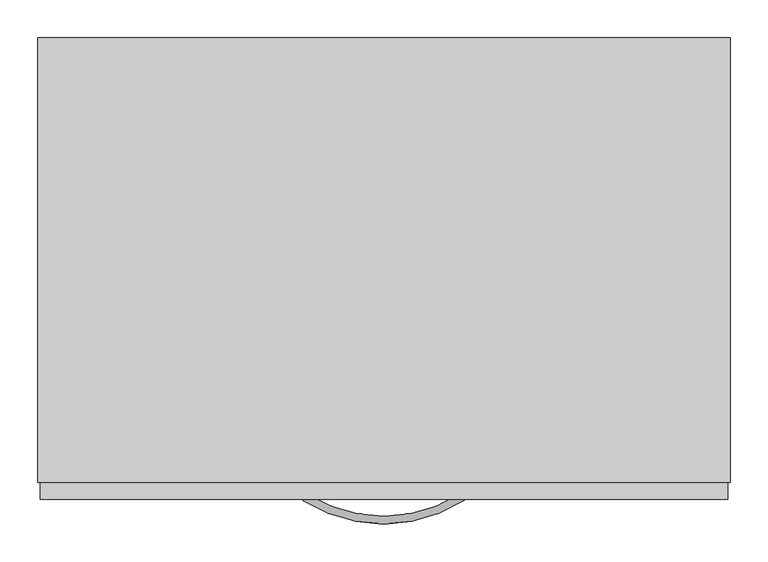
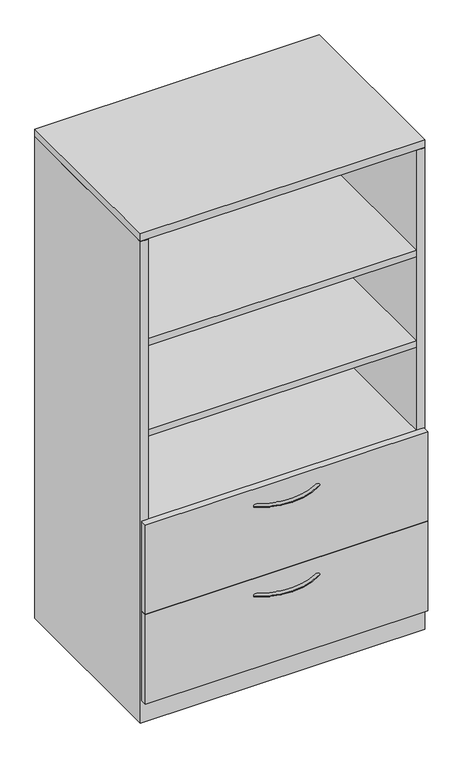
"""IFC4 building model written with IfcOpenShell, lengths in millimetres: furniture geometry, Steelcase - Universal Storage - Cabinet - Combination - Proud Steel : 65 1/2H - Open Cabinet/2 Drawers - 24D x 36W."""

from ifc_helpers import new_model, si_unit, point, frame, origin, place, context, project, spatial, polyline, circle_curve, ellipse_curve, trimmed, outline, extrude, faceted_brep, source, transform, mapped, element, save
from ifc_brep_helpers import plane_surface, revolved_surface, advanced_brep


def furniture_6ee735a6(model_context):
    return source(origin(), model_context, "Body", "SolidModel", [
        extrude(outline(polyline([(889.0000242, 104.6479992), (889.0000242, -454.0250121), (25.4000008, -454.0250121), (25.4000008, 104.6479992), (889.0000242, 104.6479992)])), frame((0.0, 0.0, 660.4000242), z_axis=(0.0, 0.0, 1.0), x_axis=(1.0, 0.0, 0.0)), (0.0, 0.0, 1.0), 22.2249516),
        extrude(outline(polyline([(889.0000242, 104.6479992), (889.0000242, -454.0250121), (25.4000008, -454.0250121), (25.4000008, 104.6479992), (889.0000242, 104.6479992)])), frame((0.0, 0.0, 965.2000242), z_axis=(0.0, 0.0, 1.0), x_axis=(1.0, 0.0, 0.0)), (0.0, 0.0, 1.0), 22.2249516),
        extrude(outline(polyline([(889.0000242, 104.6479992), (889.0000242, -454.0250121), (25.4000008, -454.0250121), (25.4000008, 104.6479992), (889.0000242, 104.6479992)])), frame((0.0, 0.0, 1273.1750484), z_axis=(0.0, 0.0, 1.0), x_axis=(1.0, 0.0, 0.0)), (0.0, 0.0, 1.0), 22.2249516),
        advanced_brep(
        [(350.6245932, -481.5705994, 323.56425), (356.0977519, -473.0108019, 323.56425), (562.9315136, -481.1337636, 323.56425), (557.4231767, -472.5965612, 323.56425)],
        [
            (0, 1, circle_curve(frame((353.3611726, -477.2907007, 323.56425), z_axis=(-0.8424997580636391, 0.5386967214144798, 0.0), x_axis=(0.5386967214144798, 0.8424997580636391, 0.0)), 5.08)),
            (1, 0, circle_curve(frame((353.3611726, -477.2907007, 323.56425), z_axis=(-0.8424997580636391, 0.5386967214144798, 0.0), x_axis=(0.5386967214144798, 0.8424997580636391, 0.0)), 5.08)),
            (2, 3, circle_curve(frame((560.1773452, -476.8651624, 323.56425), z_axis=(0.8402758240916, 0.5421591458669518, 0.0), x_axis=(-0.5421591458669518, 0.8402758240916, 0.0)), 5.08)),
            (3, 2, circle_curve(frame((560.1773452, -476.8651624, 323.56425), z_axis=(0.8402758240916, 0.5421591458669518, 0.0), x_axis=(-0.5421591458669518, 0.8402758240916, 0.0)), 5.08)),
            (3, 1, circle_curve(frame((456.4380004, -316.0827352, 323.56425), z_axis=(0.0, 0.0, -1.0), x_axis=(-0.5386967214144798, -0.8424997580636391, 0.0)), 186.2648211)),
            (0, 2, circle_curve(frame((456.4380004, -316.0827352, 323.56425), z_axis=(0.0, 0.0, 1.0), x_axis=(-0.5386967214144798, -0.8424997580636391, 0.0)), 196.4248211)),
        ],
        [
            plane_surface(frame((353.7794521, -476.6365286, 324.358), z_axis=(-0.8424997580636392, 0.5386967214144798, 0.0), x_axis=(0.0, 0.0, 1.0))),
            plane_surface(frame((559.7563772, -476.2127171, 324.358), z_axis=(0.8402758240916, 0.5421591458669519, 0.0), x_axis=(0.0, 0.0, 1.0))),
            revolved_surface(trimmed(ellipse_curve(frame((353.3611726, -477.2907007, 323.56425), z_axis=(-0.8424997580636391, 0.5386967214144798, 0.0), x_axis=(0.5386967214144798, 0.8424997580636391, 0.0)), 5.08, 5.08), [point((350.6245932, -481.5705994, 323.56425))], [point((356.0977519, -473.0108019, 323.56425))], True, "CARTESIAN"), (456.4380004, -316.0827352, 324.358), (0.0, 0.0, 1.0)),
            revolved_surface(trimmed(ellipse_curve(frame((353.3611726, -477.2907007, 323.56425), z_axis=(-0.8424997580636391, 0.5386967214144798, 0.0), x_axis=(0.5386967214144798, 0.8424997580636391, 0.0)), 5.08, 5.08), [point((356.0977519, -473.0108019, 323.56425))], [point((350.6245932, -481.5705994, 323.56425))], True, "CARTESIAN"), (456.4380004, -316.0827352, 324.358), (0.0, 0.0, 1.0)),
        ],
        [
            (0, [[1, 2]]),
            (1, [[3, 4]]),
            (2, [[5, -1, 6, -4]]),
            (3, [[-6, -2, -5, -3]]),
        ],
    ),
        advanced_brep(
        [(350.6245932, -481.5705994, 627.85625), (356.0977519, -473.0108019, 627.85625), (562.9315136, -481.1337636, 627.85625), (557.4231767, -472.5965612, 627.85625)],
        [
            (0, 1, circle_curve(frame((353.3611726, -477.2907007, 627.85625), z_axis=(-0.8424997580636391, 0.5386967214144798, 0.0), x_axis=(0.5386967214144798, 0.8424997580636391, 0.0)), 5.08)),
            (1, 0, circle_curve(frame((353.3611726, -477.2907007, 627.85625), z_axis=(-0.8424997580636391, 0.5386967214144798, 0.0), x_axis=(0.5386967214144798, 0.8424997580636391, 0.0)), 5.08)),
            (2, 3, circle_curve(frame((560.1773452, -476.8651624, 627.85625), z_axis=(0.8402758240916, 0.5421591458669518, 0.0), x_axis=(-0.5421591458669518, 0.8402758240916, 0.0)), 5.08)),
            (3, 2, circle_curve(frame((560.1773452, -476.8651624, 627.85625), z_axis=(0.8402758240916, 0.5421591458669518, 0.0), x_axis=(-0.5421591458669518, 0.8402758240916, 0.0)), 5.08)),
            (3, 1, circle_curve(frame((456.4380004, -316.0827352, 627.85625), z_axis=(0.0, 0.0, -1.0), x_axis=(-0.5386967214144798, -0.8424997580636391, 0.0)), 186.2648211)),
            (0, 2, circle_curve(frame((456.4380004, -316.0827352, 627.85625), z_axis=(0.0, 0.0, 1.0), x_axis=(-0.5386967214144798, -0.8424997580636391, 0.0)), 196.4248211)),
        ],
        [
            plane_surface(frame((353.7794521, -476.6365286, 628.65), z_axis=(-0.8424997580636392, 0.5386967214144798, 0.0), x_axis=(0.0, 0.0, 1.0))),
            plane_surface(frame((559.7563772, -476.2127171, 628.65), z_axis=(0.8402758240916, 0.5421591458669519, 0.0), x_axis=(0.0, 0.0, 1.0))),
            revolved_surface(trimmed(ellipse_curve(frame((353.3611726, -477.2907007, 627.85625), z_axis=(-0.8424997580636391, 0.5386967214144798, 0.0), x_axis=(0.5386967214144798, 0.8424997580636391, 0.0)), 5.08, 5.08), [point((350.6245932, -481.5705994, 627.85625))], [point((356.0977519, -473.0108019, 627.85625))], True, "CARTESIAN"), (456.4380004, -316.0827352, 628.65), (0.0, 0.0, 1.0)),
            revolved_surface(trimmed(ellipse_curve(frame((353.3611726, -477.2907007, 627.85625), z_axis=(-0.8424997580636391, 0.5386967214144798, 0.0), x_axis=(0.5386967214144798, 0.8424997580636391, 0.0)), 5.08, 5.08), [point((356.0977519, -473.0108019, 627.85625))], [point((350.6245932, -481.5705994, 627.85625))], True, "CARTESIAN"), (456.4380004, -316.0827352, 628.65), (0.0, 0.0, 1.0)),
        ],
        [
            (0, [[1, 2]]),
            (1, [[3, 4]]),
            (2, [[5, -1, 6, -4]]),
            (3, [[-6, -2, -5, -3]]),
        ],
    ),
        faceted_brep([(25.4000008, -457.3261219, 76.2), (889.0000242, -457.3261219, 76.2), (889.0000242, 104.6479992, 76.2), (25.4000008, 104.6479992, 76.2), (914.4, 130.048, 0.0), (914.4, -457.3261219, 0.0), (0.0, -457.3261219, 0.0), (0.0, 130.048, 0.0), (0.0, 130.048, 1636.776), (914.4, 130.048, 1636.776), (0.0, -457.3261219, 1636.776), (914.4, -457.3261219, 1636.776), (889.0000242, -457.3261219, 1636.776), (25.4000008, -457.3261219, 1636.776), (889.0000242, 104.6479992, 1636.776), (25.4000008, 104.6479992, 1636.776)], [[[0, 1, 2, 3]], [[4, 5, 6, 7]], [[4, 7, 8, 9]], [[8, 7, 6, 10]], [[10, 6, 5, 11, 12, 1, 0, 13]], [[11, 5, 4, 9]], [[14, 12, 11, 9, 8, 10, 13, 15]], [[12, 14, 2, 1]], [[15, 13, 0, 3]], [[14, 15, 3, 2]]]),
        extrude(outline(polyline([(911.2225413, -479.552), (3.1725353, -479.552), (3.1725353, -457.3261219), (911.2225413, -457.3261219), (911.2225413, -479.552)])), frame((0.0, 0.0, 77.724), z_axis=(0.0, 0.0, 1.0), x_axis=(1.0, 0.0, 0.0)), (0.0, 0.0, 1.0), 303.276),
        extrude(outline(polyline([(911.2225413, -479.552), (3.1725353, -479.552), (3.1725353, -457.3261219), (911.2225413, -457.3261219), (911.2225413, -479.552)])), frame((0.0, 0.0, 382.524), z_axis=(0.0, 0.0, 1.0), x_axis=(1.0, 0.0, 0.0)), (0.0, 0.0, 1.0), 303.276),
        extrude(outline(polyline([(914.4, 130.048), (914.4, -457.3261219), (0.0, -457.3261219), (0.0, 130.048), (914.4, 130.048)])), frame((0.0, 0.0, 1638.2999516), z_axis=(0.0, 0.0, 1.0), x_axis=(1.0, 0.0, 0.0)), (0.0, 0.0, 1.0), 25.4000484),
    ])


if __name__ == "__main__":
    model = new_model("IFC4")
    model_context = context("Model", 3, world=origin())
    ifc_project = project(units=[si_unit("LENGTHUNIT", "METRE", prefix="MILLI")], contexts=[model_context])
    site = spatial("IfcSite", under=ifc_project)
    building = spatial("IfcBuilding", under=site)
    placement = place(None, origin())
    furniture_shape = furniture_6ee735a6(model_context)
    element("IfcFurniture", 1, ObjectType="Steelcase - Universal Storage - Cabinet - Combination - Proud Steel : 65 1/2H - Open Cabinet/2 Drawers - 24D x 36W", at=placement, inside=building, context=model_context, shape_type="MappedRepresentation", body=[
        mapped(furniture_shape, transform((0.0, 0.0, 0.0), x_axis=(1.0, 0.0, 0.0), y_axis=(0.0, 1.0, 0.0), z_axis=(0.0, 0.0, 1.0))),
    ])
    save(model, "model.ifc")
